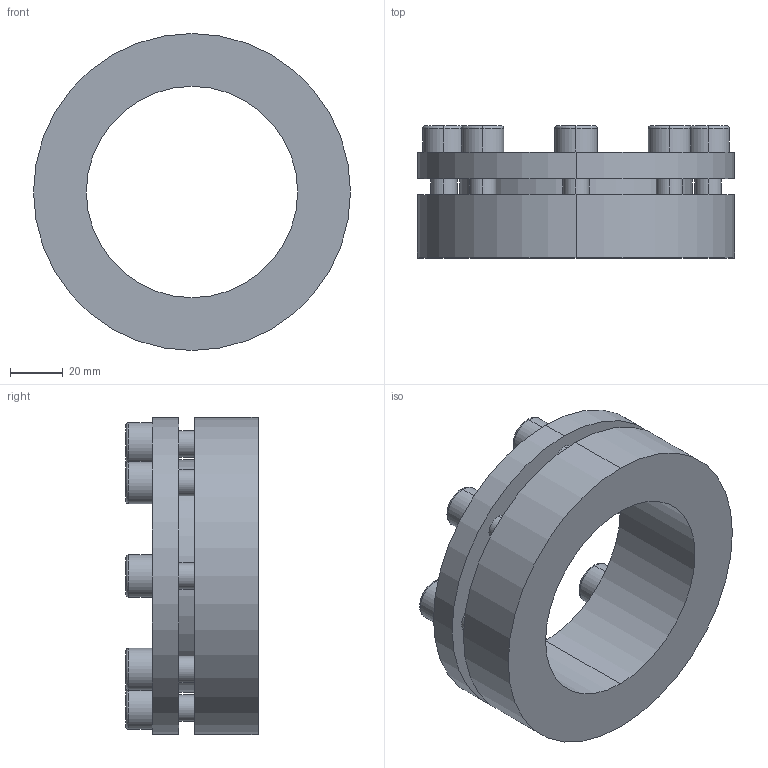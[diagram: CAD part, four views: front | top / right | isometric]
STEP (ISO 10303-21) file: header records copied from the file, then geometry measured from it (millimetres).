
FILE_DESCRIPTION (( 'STEP AP203' ), '1' );
FILE_NAME ('PL-H3 80-120.STEP', '2021-10-23T01:09:12', ( '' ), ( '' ), 'SwSTEP 2.0', 'SolidWorks 2018', '' );
FILE_SCHEMA (( 'CONFIG_CONTROL_DESIGN' ));
Length unit declared in the file: millimetre
Products named in the file (1): PL-H3 80-120
Bounding box: 120 x 50 x 120 mm (x, y, z)
Volume: 237515.7 mm3; surface area: 52756.1 mm2
Topology: 1 solids, 1 shells, 124 faces, 296 edges, 192 vertices
Faces by surface type: plane 68, cylinder 40, torus 16
Entity records: 3717 total; most frequent: DIRECTION 658, CARTESIAN_POINT 613, ORIENTED_EDGE 592, EDGE_CURVE 296, AXIS2_PLACEMENT_3D 237, VERTEX_POINT 192, VECTOR 184, LINE 184
